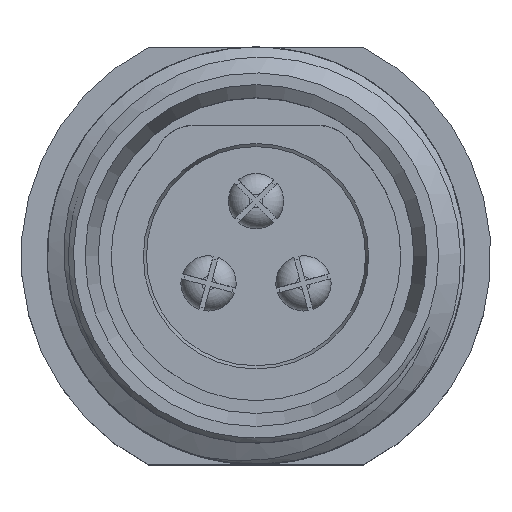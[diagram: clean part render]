
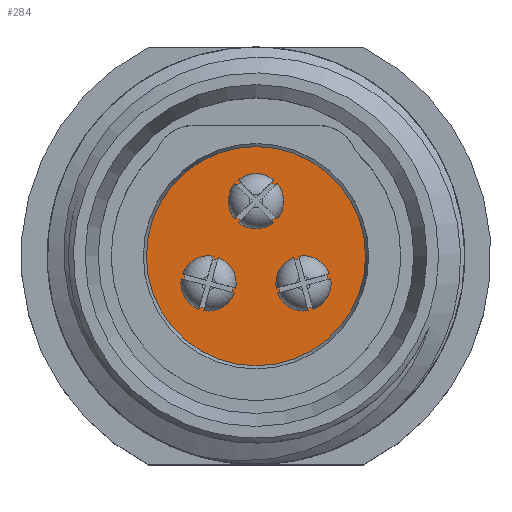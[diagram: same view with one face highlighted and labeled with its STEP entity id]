
A CAD part, top view. The second image highlights one B-rep face of the part: STEP entity #284.
In plain terms, the highlighted planar face has unit normal (0, 0, 1).
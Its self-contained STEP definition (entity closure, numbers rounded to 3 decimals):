
#57 = CARTESIAN_POINT ( 'NONE',  ( 0., 2.1, 0. ) ) ;
#115 = EDGE_LOOP ( 'NONE', ( #331 ) ) ;
#159 = VERTEX_POINT ( 'NONE', #5530 ) ;
#227 = DIRECTION ( 'NONE',  ( -0.5, -0.866, 0. ) ) ;
#284 = ADVANCED_FACE ( 'NONE', ( #4427, #851, #3828, #3124 ), #3275, .T. ) ;
#331 = ORIENTED_EDGE ( 'NONE', *, *, #5865, .F. ) ;
#438 = CIRCLE ( 'NONE', #5000, 0.95 ) ;
#851 = FACE_BOUND ( 'NONE', #3488, .T. ) ;
#1282 = VERTEX_POINT ( 'NONE', #2581 ) ;
#1371 = DIRECTION ( 'NONE',  ( 0., -1., 0. ) ) ;
#1917 = CARTESIAN_POINT ( 'NONE',  ( -2.294, -0.227, 0. ) ) ;
#2351 = CIRCLE ( 'NONE', #7301, 4.2 ) ;
#2451 = EDGE_LOOP ( 'NONE', ( #3220 ) ) ;
#2521 = EDGE_CURVE ( 'NONE', #3668, #3668, #6256, .T. ) ;
#2581 = CARTESIAN_POINT ( 'NONE',  ( 0.95, 2.1, 0. ) ) ;
#2675 = CARTESIAN_POINT ( 'NONE',  ( 0., 4.2, 0. ) ) ;
#2733 = CARTESIAN_POINT ( 'NONE',  ( 1.819, -1.05, 0. ) ) ;
#2958 = CARTESIAN_POINT ( 'NONE',  ( 0., 0., 0. ) ) ;
#3036 = DIRECTION ( 'NONE',  ( 0., 0., -1. ) ) ;
#3115 = CIRCLE ( 'NONE', #6157, 0.95 ) ;
#3124 = FACE_BOUND ( 'NONE', #7485, .T. ) ;
#3220 = ORIENTED_EDGE ( 'NONE', *, *, #2521, .F. ) ;
#3275 = PLANE ( 'NONE',  #7639 ) ;
#3488 = EDGE_LOOP ( 'NONE', ( #4086 ) ) ;
#3638 = EDGE_CURVE ( 'NONE', #5565, #5565, #438, .T. ) ;
#3668 = VERTEX_POINT ( 'NONE', #7318 ) ;
#3828 = FACE_BOUND ( 'NONE', #2451, .T. ) ;
#4086 = ORIENTED_EDGE ( 'NONE', *, *, #6063, .F. ) ;
#4109 = ORIENTED_EDGE ( 'NONE', *, *, #3638, .F. ) ;
#4113 = DIRECTION ( 'NONE',  ( -0.5, 0.866, 0. ) ) ;
#4427 = FACE_OUTER_BOUND ( 'NONE', #115, .T. ) ;
#4513 = DIRECTION ( 'NONE',  ( 0., 0., 1. ) ) ;
#4738 = AXIS2_PLACEMENT_3D ( 'NONE', #2733, #5230, #227 ) ;
#4747 = CARTESIAN_POINT ( 'NONE',  ( -1.819, -1.05, 0. ) ) ;
#4869 = DIRECTION ( 'NONE',  ( 1., 0., 0. ) ) ;
#5000 = AXIS2_PLACEMENT_3D ( 'NONE', #4747, #7756, #4113 ) ;
#5018 = DIRECTION ( 'NONE',  ( 0., 0., 1. ) ) ;
#5230 = DIRECTION ( 'NONE',  ( 0., 0., 1. ) ) ;
#5530 = CARTESIAN_POINT ( 'NONE',  ( 0., 4.2, 0. ) ) ;
#5565 = VERTEX_POINT ( 'NONE', #1917 ) ;
#5865 = EDGE_CURVE ( 'NONE', #159, #159, #2351, .T. ) ;
#6063 = EDGE_CURVE ( 'NONE', #1282, #1282, #3115, .T. ) ;
#6157 = AXIS2_PLACEMENT_3D ( 'NONE', #57, #5018, #4869 ) ;
#6256 = CIRCLE ( 'NONE', #4738, 0.95 ) ;
#7301 = AXIS2_PLACEMENT_3D ( 'NONE', #2958, #3036, #7690 ) ;
#7318 = CARTESIAN_POINT ( 'NONE',  ( 1.344, -1.873, 0. ) ) ;
#7485 = EDGE_LOOP ( 'NONE', ( #4109 ) ) ;
#7639 = AXIS2_PLACEMENT_3D ( 'NONE', #2675, #4513, #1371 ) ;
#7690 = DIRECTION ( 'NONE',  ( 0., 1., 0. ) ) ;
#7756 = DIRECTION ( 'NONE',  ( 0., 0., 1. ) ) ;
